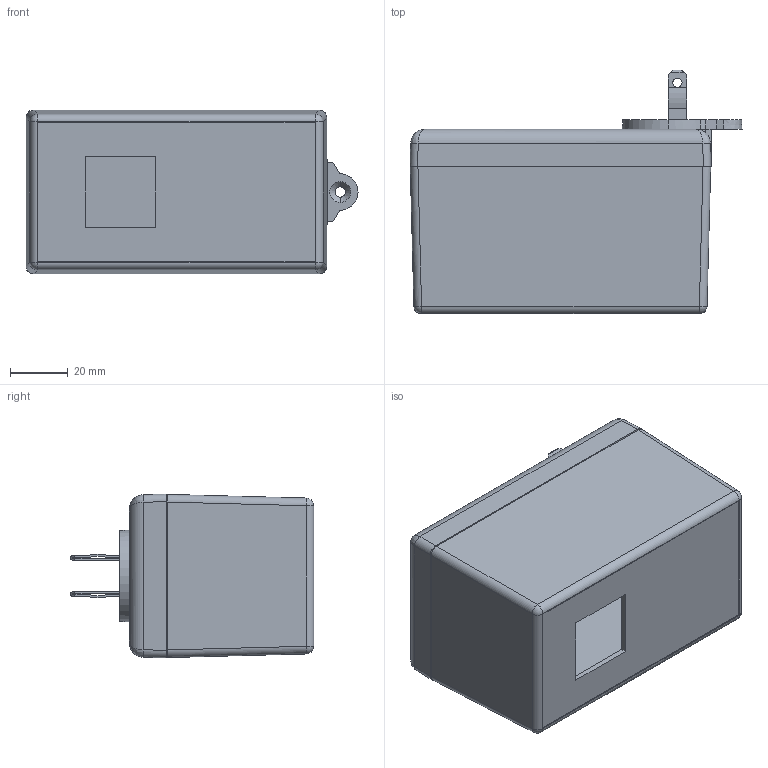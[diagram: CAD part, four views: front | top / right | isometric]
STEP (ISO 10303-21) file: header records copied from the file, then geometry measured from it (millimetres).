
FILE_DESCRIPTION (( 'STEP AP214' ), '1' );
FILE_NAME ('PM2425R12XWT.STEP', '2010-07-15T14:16:58', ( '' ), ( '' ), 'SwSTEP 2.0', 'SolidWorks 2010', '' );
FILE_SCHEMA (( 'AUTOMOTIVE_DESIGN' ));
Length unit declared in the file: inch
Products named in the file (8): TS-2420B AND PM2420_PM2420R1; B2405 ASS''Y_B24052XWT; MPB2405_MPB24052WT; BLADES; WELD DISC-PS-BK; SCREWS-HL1-BR; B2405-PCB; PM2425R12XWT
Assembly tree (11 placements, depth 3):
  PM2425R12XWT
    SCREWS-HL1-BR  x4
    B2405-PCB
    B2405 ASS''Y_B24052XWT
      MPB2405_MPB24052WT
      WELD DISC-PS-BK
      BLADES  x2
    TS-2420B AND PM2420_PM2420R1
Bounding box: 115.34 x 84.55 x 56.95 mm (x, y, z)
Volume: 86953.5 mm3; surface area: 81511.6 mm2
Topology: 10 solids, 10 shells, 892 faces, 2486 edges, 1622 vertices
Faces by surface type: cylinder 488, plane 278, cone 82, bspline 28, sphere 12, torus 4
Entity records: 18607 total; most frequent: CARTESIAN_POINT 6172, ORIENTED_EDGE 2686, DIRECTION 2395, EDGE_CURVE 1343, VERTEX_POINT 872, AXIS2_PLACEMENT_3D 842, VECTOR 711, LINE 711
